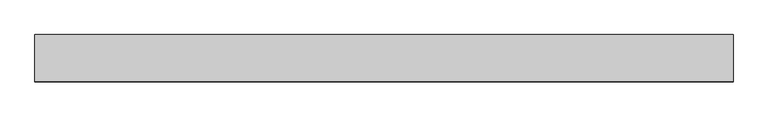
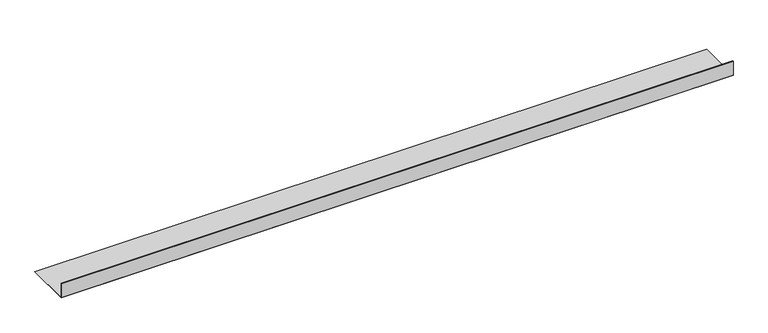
"""IFC4 building model written with IfcOpenShell, lengths in millimetres: proxy geometry, Оцинкованный уголок : 150х50х0.8."""

from ifc_helpers import new_model, si_unit, frame, origin, place, context, project, spatial, polyline, outline, extrude, source, transform, mapped, element, save


def generic_models_c584d363(model_context):
    return source(origin(), model_context, "Body", "SweptSolid", [
        extrude(outline(polyline([(0.0, 50.0), (0.8, 50.0), (0.8, 0.8), (150.0, 0.8), (150.0, 0.0), (0.0, 0.0), (0.0, 50.0)])), frame((0.0, 0.0, 0.0), z_axis=(1.0, 0.0, 0.0), x_axis=(0.0, 1.0, 0.0)), (0.0, 0.0, 1.0), 2210.0),
    ])


if __name__ == "__main__":
    model = new_model("IFC4")
    model_context = context("Model", 3, world=origin())
    ifc_project = project(units=[si_unit("LENGTHUNIT", "METRE", prefix="MILLI")], contexts=[model_context])
    site = spatial("IfcSite", under=ifc_project)
    building = spatial("IfcBuilding", under=site)
    placement = place(None, origin())
    generic_models_shape = generic_models_c584d363(model_context)
    element("IfcBuildingElementProxy", 1, Name="Оцинкованный уголок : 150х50х0.8", ObjectType="Оцинкованный уголок : 150х50х0.8", at=placement, inside=building, context=model_context, shape_type="MappedRepresentation", body=[
        mapped(generic_models_shape, transform((0.0, 0.0, 0.0), x_axis=(1.0, 0.0, 0.0), y_axis=(0.0, 1.0, 0.0), z_axis=(0.0, 0.0, 1.0))),
    ])
    save(model, "model.ifc")
